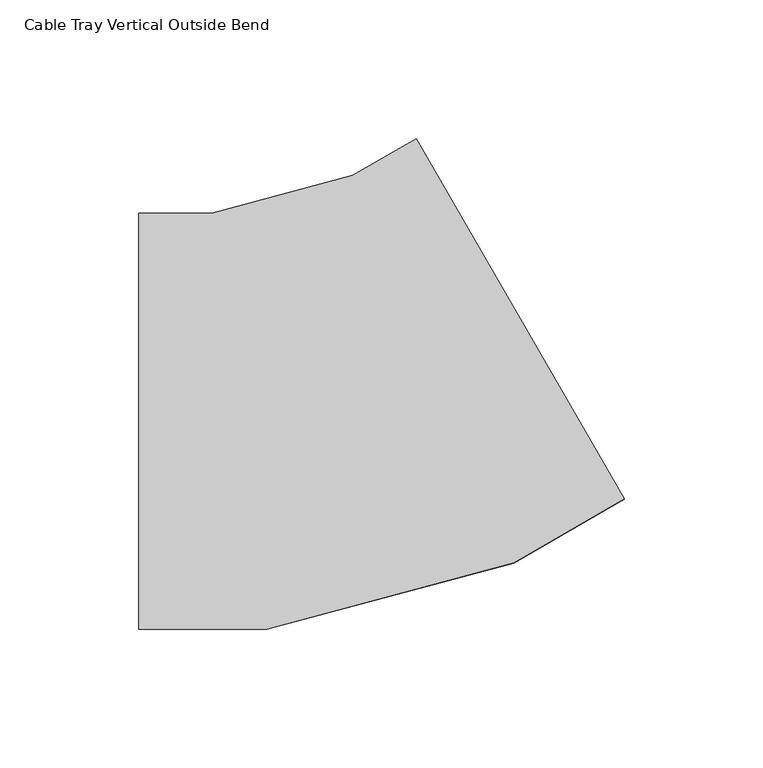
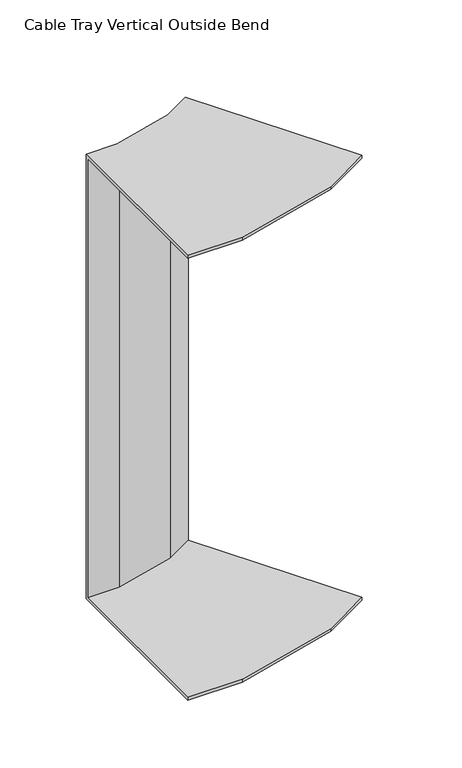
"""IFC4 building model written with IfcOpenShell, lengths in millimetres: cable carrier fitting geometry, Cable Tray Vertical Outside Bend : ELEC_ELV_TKG_N2402."""

from ifc_helpers import new_model, si_unit, origin, place, context, project, spatial, faceted_brep, source, transform, mapped, element, save


def cable_tray_vertical_outside_bend_51700d4c(model_context):
    return source(origin(), model_context, "Body", "Brep", [
        faceted_brep([(-73.716731, -75.0, 200.0), (-73.716731, 75.0, 200.0), (-73.716731, 75.0, -200.0), (-73.716731, -75.0, -200.0), (-73.716731, -75.0, -197.46), (-73.716731, 72.46, -197.46), (-73.716731, 72.46, 197.46), (-73.716731, -75.0, 197.46), (101.3464122, -28.0724268, 200.0), (101.3464122, -28.0724268, 197.46), (27.5898091, 99.6163162, 197.46), (27.5898091, 99.6163162, -197.46), (101.3464122, -28.0724268, -197.46), (101.3464122, -28.0724268, -200.0), (26.3193509, 101.8157561, -200.0), (26.3193509, 101.8157561, 200.0), (-27.6198118, -75.0, 200.0), (61.4301118, -51.1292027, 200.0), (3.5100363, 88.6404556, 200.0), (-47.3756343, 75.0, 200.0), (-47.3756343, 75.0, -200.0), (3.5100363, 88.6404556, -200.0), (61.4301118, -51.1292027, -200.0), (-27.6198118, -75.0, -200.0), (-27.6198118, -75.0, -197.46), (61.4301118, -51.1292027, -197.46), (4.4908163, 86.2736894, -197.46), (-47.0411023, 72.46, -197.46), (-47.0411023, 72.46, 197.46), (4.4908163, 86.2736894, 197.46), (61.4301118, -51.1292027, 197.46), (-27.6198118, -75.0, 197.46)], [[[0, 1, 2, 3, 4, 5, 6, 7]], [[8, 9, 10, 11, 12, 13, 14, 15]], [[1, 0, 16, 17, 8, 15, 18, 19]], [[2, 1, 19, 20]], [[3, 2, 20, 21, 14, 13, 22, 23]], [[4, 3, 23, 24]], [[5, 4, 24, 25, 12, 11, 26, 27]], [[6, 5, 27, 28]], [[7, 6, 28, 29, 10, 9, 30, 31]], [[0, 7, 31, 16]], [[20, 19, 18, 21]], [[24, 23, 22, 25]], [[28, 27, 26, 29]], [[16, 31, 30, 17]], [[21, 18, 15, 14]], [[25, 22, 13, 12]], [[29, 26, 11, 10]], [[17, 30, 9, 8]]]),
    ])


if __name__ == "__main__":
    model = new_model("IFC4")
    model_context = context("Model", 3, world=origin())
    ifc_project = project(units=[si_unit("LENGTHUNIT", "METRE", prefix="MILLI")], contexts=[model_context])
    site = spatial("IfcSite", under=ifc_project)
    building = spatial("IfcBuilding", under=site)
    placement = place(None, origin())
    cable_tray_vertical_outside_bend_shape = cable_tray_vertical_outside_bend_51700d4c(model_context)
    element("IfcCableCarrierFitting", 1, ObjectType="Cable Tray Vertical Outside Bend : ELEC_ELV_TKG_N2402", at=placement, inside=building, context=model_context, shape_type="MappedRepresentation", body=[
        mapped(cable_tray_vertical_outside_bend_shape, transform((0.0, 0.0, 0.0), x_axis=(1.0, 0.0, 0.0), y_axis=(0.0, 1.0, 0.0), z_axis=(0.0, 0.0, 1.0))),
    ])
    save(model, "model.ifc")
